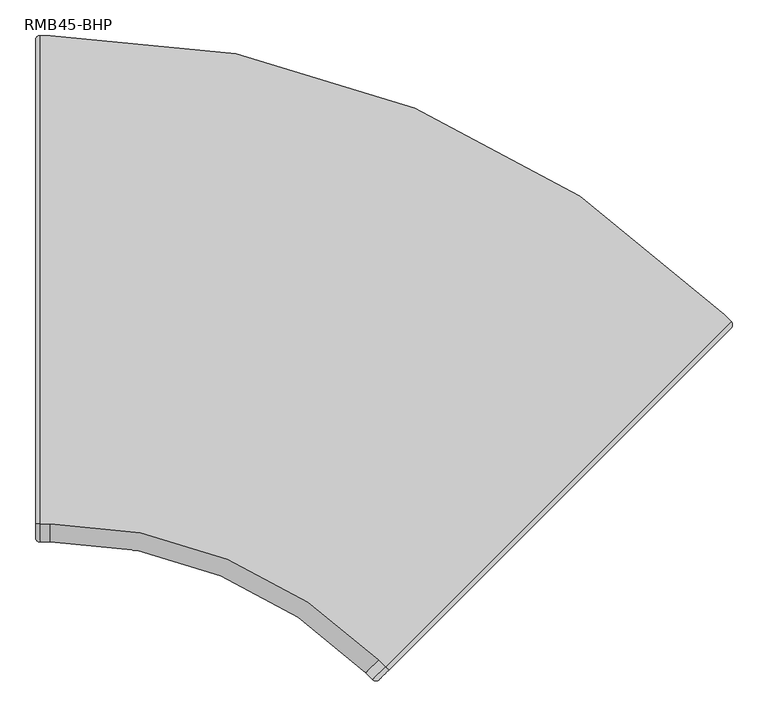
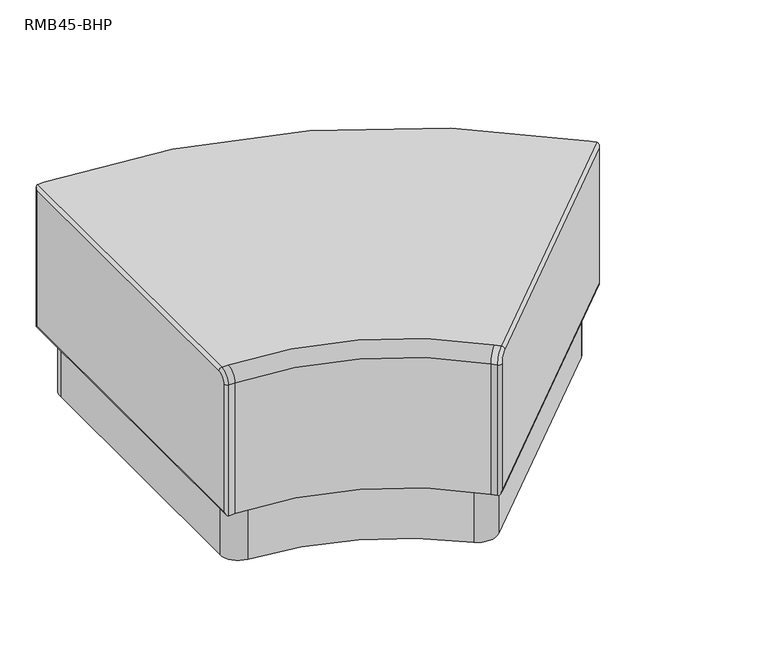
"""IFC4 building model written with IfcOpenShell, lengths in millimetres: furniture geometry, Stance_HC-Rosetta-45_Curve_Bench_Plinth_Base : RMB45-BHP."""

from ifc_helpers import new_model, si_unit, point, frame, frame_2d, origin, origin_with_axes, place, context, project, spatial, polyline, circle_curve, ellipse_curve, trimmed, segment, composite_curve, outline, extrude, source, transform, mapped, element, save
from ifc_brep_helpers import plane_surface, cylinder_surface, revolved_surface, advanced_brep


def rmb45_bhp_5dc01c21(model_context):
    return source(origin(), model_context, "Body", "SolidModel", [
        extrude(outline(composite_curve([segment(trimmed(circle_curve(frame_2d((895.3141151, -406.5636273)), 39.6875), [point((922.4922983, -377.6422855))], [point((923.3774154, -434.6269277))], False, "CARTESIAN"), True, "CONTINUOUS"), segment(polyline([(923.3774154, -434.6269277), (504.8361601, -853.168183)]), True, "CONTINUOUS"), segment(trimmed(circle_curve(frame_2d((476.7728597, -825.1048826)), 39.6875), [point((504.8361601, -853.168183))], [point((450.3788925, -854.7436436))], False, "CARTESIAN"), True, "CONTINUOUS"), segment(trimmed(circle_curve(frame_2d((20.225, -1337.7793431)), 646.8043431), [point((450.3788925, -854.7436436))], [point((57.6180843, -692.0567901))], True, "CARTESIAN"), True, "CONTINUOUS"), segment(trimmed(circle_curve(frame_2d((59.9125, -652.435668)), 39.6875), [point((57.6180843, -692.0567901))], [point((20.225, -652.435668))], False, "CARTESIAN"), True, "CONTINUOUS"), segment(polyline([(20.225, -652.435668), (20.225, -60.5289483)]), True, "CONTINUOUS"), segment(trimmed(circle_curve(frame_2d((59.9125, -60.5289483)), 39.6875), [point((20.225, -60.5289483))], [point((61.1450992, -20.8605937))], False, "CARTESIAN"), True, "CONTINUOUS"), segment(trimmed(circle_curve(frame_2d((20.225, -1337.7793431)), 1317.5543431), [point((61.1450992, -20.8605937))], [point((922.4922983, -377.6422855))], False, "CARTESIAN"), True, "CONTINUOUS")], self_intersect=False)), frame((0.0, 0.0, 6.3627), z_axis=(0.0, 0.0, 1.0), x_axis=(1.0, 0.0, 0.0)), (0.0, 0.0, 1.0), 128.51892),
        advanced_brep(
        [(966.1778452, -391.8264979, 457.2), (20.225, 0.0, 457.2), (6.35, 0.0, 457.2), (6.35, -685.7999758, 457.2), (20.225, -685.7999758, 457.2), (481.2440318, -876.7603113, 457.2), (491.0551384, -886.5714179, 457.2), (975.9889518, -401.6376045, 457.2), (966.1778452, -391.8264979, 134.88162), (20.225, 0.0, 134.88162), (975.9889518, -401.6376045, 134.88162), (473.0946262, -904.5319301, 134.88162), (463.2835196, -894.7208235, 134.88162), (20.225, -711.1999758, 134.88162), (6.35, -711.1999758, 134.88162), (6.35, 0.0, 134.88162), (463.2835196, -894.7208235, 431.8), (20.225, -711.1999758, 431.8), (0.0, -6.35, 141.23162), (0.0, -6.35, 450.85), (0.0, -704.8499758, 141.23162), (6.35, -711.1999758, 431.8), (0.0, -704.8499758, 431.8), (0.0, -685.7999758, 450.85), (482.0748823, -904.5319301, 431.8), (495.5452665, -891.0615459, 450.85), (473.0946262, -904.5319301, 431.8), (482.0748823, -904.5319301, 141.23162), (975.9889518, -410.6178606, 141.23162), (975.9889518, -410.6178606, 450.85)],
        [
            (0, 1, circle_curve(frame((20.225, -1337.7793431, 457.2), z_axis=(0.0, 0.0, 1.0), x_axis=(0.0, 1.0, 0.0)), 1337.7793431)),
            (1, 2),
            (2, 3),
            (3, 4),
            (4, 5, circle_curve(frame((20.225, -1337.7793431, 457.2), z_axis=(0.0, 0.0, -1.0), x_axis=(0.0, 1.0, 0.0)), 651.9793673)),
            (5, 6),
            (6, 7),
            (7, 0),
            (0, 8),
            (8, 9, circle_curve(frame((20.225, -1337.7793431, 134.88162), z_axis=(0.0, 0.0, 1.0), x_axis=(0.0, 1.0, 0.0)), 1337.7793431)),
            (9, 1),
            (8, 10),
            (10, 11),
            (11, 12),
            (12, 13, circle_curve(frame((20.225, -1337.7793431, 134.88162), z_axis=(0.0, 0.0, 1.0), x_axis=(0.0, 1.0, 0.0)), 626.5793673)),
            (13, 14),
            (14, 15),
            (15, 9),
            (12, 16),
            (16, 17, circle_curve(frame((20.225, -1337.7793431, 431.8), z_axis=(0.0, 0.0, 1.0), x_axis=(0.0, 1.0, 0.0)), 626.5793673)),
            (17, 13),
            (4, 17, circle_curve(frame((20.225, -685.7999758, 431.8), z_axis=(1.0, 0.0, 0.0), x_axis=(0.0, 1.0, 0.0)), 25.4)),
            (16, 5, circle_curve(frame((481.2440318, -876.7603113, 431.8), z_axis=(-0.7071067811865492, 0.7071067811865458, 0.0), x_axis=(0.7071067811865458, 0.7071067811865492, 0.0)), 25.4)),
            (15, 2),
            (15, 18, ellipse_curve(frame((6.35, -6.35, 141.23162), z_axis=(0.0, 0.7071067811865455, 0.7071067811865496), x_axis=(0.0, -0.7071067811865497, 0.7071067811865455)), 8.9802561, 6.35)),
            (18, 19),
            (19, 2, ellipse_curve(frame((6.35, -6.35, 450.85), z_axis=(0.0, 0.7071067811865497, -0.7071067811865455), x_axis=(0.0, 0.7071067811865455, 0.7071067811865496)), 8.9802561, 6.35)),
            (14, 20, ellipse_curve(frame((6.35, -704.8499758, 141.23162), z_axis=(0.0, 0.7071067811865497, -0.7071067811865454), x_axis=(0.0, 0.7071067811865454, 0.7071067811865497)), 8.9802561, 6.35)),
            (20, 18),
            (17, 21),
            (21, 14),
            (21, 22, circle_curve(frame((6.35, -704.8499758, 431.8), z_axis=(0.0, 0.0, -1.0), x_axis=(0.0, -1.0, 0.0)), 6.35)),
            (22, 20),
            (3, 21, circle_curve(frame((6.35, -685.7999758, 431.8), z_axis=(1.0, 0.0, 0.0), x_axis=(0.0, -1.0, 0.0)), 25.4)),
            (3, 23, circle_curve(frame((6.35, -685.7999758, 450.85), z_axis=(0.0, -1.0, 0.0), x_axis=(0.0, 0.0, 1.0)), 6.35)),
            (23, 22, circle_curve(frame((0.0, -685.7999758, 431.8), z_axis=(1.0, 0.0, 0.0), x_axis=(0.0, -1.0, 0.0)), 19.05)),
            (19, 23),
            (24, 25, circle_curve(frame((495.5452665, -891.0615459, 431.8), z_axis=(-0.7071067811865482, 0.7071067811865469, 0.0), x_axis=(0.0, 0.0, 1.0)), 19.05)),
            (25, 6, circle_curve(frame((491.0551384, -886.5714179, 450.85), z_axis=(-0.7071067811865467, -0.7071067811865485, 0.0), x_axis=(0.0, 0.0, -1.0)), 6.35)),
            (6, 26, circle_curve(frame((491.0551384, -886.5714179, 431.8), z_axis=(0.7071067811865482, -0.7071067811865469, 0.0), x_axis=(0.0, 0.0, 1.0)), 25.4)),
            (26, 24, circle_curve(frame((477.5847542, -900.041802, 431.8), z_axis=(0.0, 0.0, 1.0), x_axis=(0.7071067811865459, 0.7071067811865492, 0.0)), 6.35)),
            (16, 26),
            (26, 11),
            (11, 27, ellipse_curve(frame((477.5847542, -900.041802, 141.23162), z_axis=(-0.5000000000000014, -0.5000000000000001, 0.7071067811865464), x_axis=(0.4999999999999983, 0.5000000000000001, 0.7071067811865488)), 8.9802561, 6.35)),
            (27, 24),
            (10, 28, ellipse_curve(frame((971.4988238, -406.1277325, 141.23162), z_axis=(-0.4999999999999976, -0.5000000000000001, -0.707106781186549), x_axis=(-0.5000000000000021, -0.5000000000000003, 0.7071067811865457)), 8.9802561, 6.35)),
            (28, 27),
            (10, 7),
            (7, 29, ellipse_curve(frame((971.4988238, -406.1277325, 450.85), z_axis=(0.5000000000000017, 0.5000000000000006, -0.707106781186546), x_axis=(-0.4999999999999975, -0.5000000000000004, -0.7071067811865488)), 8.9802561, 6.35)),
            (29, 28),
            (25, 29),
        ],
        [
            plane_surface(frame((20.225, -1337.7793431, 457.2), z_axis=(0.0, 0.0, 1.0), x_axis=(0.0, 1.0, 0.0))),
            cylinder_surface(frame((20.225, -1337.7793431, 618.9648354), z_axis=(0.0, 0.0, -1.0), x_axis=(0.0, 1.0, 0.0)), 1337.7793431),
            plane_surface(frame((20.225, -1337.7793431, 134.88162), z_axis=(0.0, 0.0, -1.0), x_axis=(0.0, 1.0, 0.0))),
            revolved_surface(polyline([(20.225, -711.1999758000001, 134.88162), (20.225, -711.1999758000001, 431.8)]), (20.225, -1337.7793431, 618.9648354), (0.0, 0.0, -1.0)),
            revolved_surface(trimmed(ellipse_curve(frame((20.225, -685.7999758, 431.8), z_axis=(-1.0, 0.0, 0.0), x_axis=(0.0, 1.0, 0.0)), 25.4, 25.4), [point((20.225, -711.1999758, 431.8))], [point((20.225, -685.7999758, 457.2))], True, "CARTESIAN"), (20.225, -1337.7793431, 618.9648354), (0.0, 0.0, -1.0)),
            plane_surface(frame((20.225, 0.0, 457.2), z_axis=(0.0, 1.0, 0.0), x_axis=(0.0, 0.0, -1.0))),
            cylinder_surface(frame((6.35, -6.35, 457.2), z_axis=(0.0, 0.0, 1.0), x_axis=(0.0, 1.0, 0.0)), 6.35),
            cylinder_surface(frame((6.35, 0.0, 141.23162), z_axis=(0.0, 1.0, 0.0), x_axis=(0.0, 0.0, -1.0)), 6.35),
            plane_surface(frame((20.225, -711.1999758, 134.88162), z_axis=(0.0, -1.0, 0.0), x_axis=(0.0, 0.0, 1.0))),
            cylinder_surface(frame((6.35, -704.8499758, 134.88162), z_axis=(0.0, 0.0, -1.0), x_axis=(0.0, -1.0, 0.0)), 6.35),
            cylinder_surface(frame((0.0, -685.7999758, 431.8), z_axis=(-1.0, 0.0, 0.0), x_axis=(0.0, -1.0, 0.0)), 25.4),
            revolved_surface(trimmed(ellipse_curve(frame((6.35, -704.8499758, 431.8), z_axis=(0.0, 0.0, -1.0), x_axis=(0.0, -1.0, 0.0)), 6.35, 6.35), [point((6.35, -711.1999758, 431.8))], [point((0.0, -704.8499758, 431.8))], True, "CARTESIAN"), (0.0, -685.7999758, 431.8), (-1.0, 0.0, 0.0)),
            cylinder_surface(frame((6.35, -685.7999758, 450.85), z_axis=(0.0, -1.0, 0.0), x_axis=(0.0, 0.0, 1.0)), 6.35),
            plane_surface(frame((0.0, -685.7999758, 450.85), z_axis=(-1.0, 0.0, 0.0), x_axis=(0.0, 1.0, 0.0))),
            revolved_surface(trimmed(ellipse_curve(frame((491.0551384, -886.5714179, 450.85), z_axis=(0.7071067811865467, 0.7071067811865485, 0.0), x_axis=(0.0, 0.0, -1.0)), 6.35, 6.35), [point((491.0551384, -886.5714179, 457.2))], [point((495.5452665, -891.0615459, 450.85))], True, "CARTESIAN"), (481.2440318, -876.7603113, 431.8), (0.7071067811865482, -0.7071067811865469, 0.0)),
            cylinder_surface(frame((481.2440318, -876.7603113, 431.8), z_axis=(0.7071067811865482, -0.7071067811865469, 0.0), x_axis=(0.0, 0.0, 1.0)), 25.4),
            cylinder_surface(frame((477.5847542, -900.041802, 431.8), z_axis=(0.0, 0.0, 1.0), x_axis=(0.7071067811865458, 0.7071067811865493, 0.0)), 6.35),
            plane_surface(frame((463.2835196, -894.7208235, 431.8), z_axis=(-0.7071067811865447, -0.7071067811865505, 0.0), x_axis=(0.0, 0.0, -1.0))),
            cylinder_surface(frame((473.0946262, -904.5319301, 141.23162), z_axis=(-0.7071067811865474, -0.7071067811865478, 0.0), x_axis=(0.0, 0.0, 1.0)), 6.35),
            cylinder_surface(frame((971.4988238, -406.1277325, 134.88162), z_axis=(0.0, 0.0, -1.0), x_axis=(-0.7071067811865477, -0.7071067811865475, 0.0)), 6.35),
            plane_surface(frame((966.1778452, -391.8264979, 134.88162), z_axis=(0.7071067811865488, 0.7071067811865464, 0.0), x_axis=(0.0, 0.0, 1.0))),
            cylinder_surface(frame((975.9889518, -401.6376045, 450.85), z_axis=(0.7071067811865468, 0.7071067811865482, 0.0), x_axis=(0.0, 0.0, -1.0)), 6.35),
            plane_surface(frame((975.9889518, -410.6178606, 450.85), z_axis=(0.7071067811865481, -0.7071067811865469, 0.0), x_axis=(-0.7071067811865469, -0.7071067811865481, 0.0))),
        ],
        [
            (0, [[1, 2, 3, 4, 5, 6, 7, 8]]),
            (1, [[-1, 9, 10, 11]]),
            (2, [[-10, 12, 13, 14, 15, 16, 17, 18]]),
            (3, [[-15, 19, 20, 21]]),
            (4, [[-5, 22, -20, 23]]),
            (5, [[-2, -11, -18, 24]]),
            (6, [[-24, 25, 26, 27]]),
            (7, [[-25, -17, 28, 29]]),
            (8, [[-16, -21, 30, 31]]),
            (9, [[-28, -31, 32, 33]]),
            (10, [[-30, -22, -4, 34]]),
            (11, [[-32, -34, 35, 36]]),
            (12, [[-27, 37, -35, -3]]),
            (13, [[-26, -29, -33, -36, -37]]),
            (14, [[38, 39, 40, 41]]),
            (15, [[-40, -6, -23, 42]]),
            (16, [[-41, 43, 44, 45]]),
            (17, [[-42, -19, -14, -43]]),
            (18, [[-44, -13, 46, 47]]),
            (19, [[-46, 48, 49, 50]]),
            (20, [[-12, -9, -8, -48]]),
            (21, [[-39, 51, -49, -7]]),
            (22, [[-38, -45, -47, -50, -51]]),
        ],
    ),
        extrude(outline(composite_curve([segment(trimmed(circle_curve(frame_2d((56.3119278, -53.0788193)), 11.90625), [point((56.3119278, -64.9850693))], [point((56.3119278, -41.1725693))], False, "CARTESIAN"), True, "CONTINUOUS"), segment(trimmed(circle_curve(frame_2d((56.3119278, -53.0788193)), 11.90625), [point((56.3119278, -41.1725693))], [point((56.3119278, -64.9850693))], False, "CARTESIAN"), True, "CONTINUOUS")], self_intersect=False)), origin_with_axes(), (0.0, 0.0, 1.0), 6.3627),
        extrude(outline(composite_curve([segment(trimmed(circle_curve(frame_2d((56.3119278, -658.1211807)), 11.90625), [point((56.3119278, -670.0274307))], [point((56.3119278, -646.2149307))], False, "CARTESIAN"), True, "CONTINUOUS"), segment(trimmed(circle_curve(frame_2d((56.3119278, -658.1211807)), 11.90625), [point((56.3119278, -646.2149307))], [point((56.3119278, -670.0274307))], False, "CARTESIAN"), True, "CONTINUOUS")], self_intersect=False)), origin_with_axes(), (0.0, 0.0, 1.0), 6.3627),
        extrude(outline(composite_curve([segment(trimmed(circle_curve(frame_2d((903.1281408, -403.8415796)), 11.90625), [point((903.1281408, -415.7478296))], [point((903.1281408, -391.9353296))], False, "CARTESIAN"), True, "CONTINUOUS"), segment(trimmed(circle_curve(frame_2d((903.1281408, -403.8415796)), 11.90625), [point((903.1281408, -391.9353296))], [point((903.1281408, -415.7478296))], False, "CARTESIAN"), True, "CONTINUOUS")], self_intersect=False)), origin_with_axes(), (0.0, 0.0, 1.0), 6.3627),
        extrude(outline(composite_curve([segment(trimmed(circle_curve(frame_2d((475.2985842, -831.6711362)), 11.90625), [point((475.2985842, -843.5773862))], [point((475.2985842, -819.7648862))], False, "CARTESIAN"), True, "CONTINUOUS"), segment(trimmed(circle_curve(frame_2d((475.2985842, -831.6711362)), 11.90625), [point((475.2985842, -819.7648862))], [point((475.2985842, -843.5773862))], False, "CARTESIAN"), True, "CONTINUOUS")], self_intersect=False)), origin_with_axes(), (0.0, 0.0, 1.0), 6.3627),
    ])


if __name__ == "__main__":
    model = new_model("IFC4")
    model_context = context("Model", 3, world=origin())
    ifc_project = project(units=[si_unit("LENGTHUNIT", "METRE", prefix="MILLI")], contexts=[model_context])
    site = spatial("IfcSite", under=ifc_project)
    building = spatial("IfcBuilding", under=site)
    placement = place(None, origin())
    rmb45_bhp_shape = rmb45_bhp_5dc01c21(model_context)
    element("IfcFurniture", 1, ObjectType="Stance_HC-Rosetta-45_Curve_Bench_Plinth_Base : RMB45-BHP", at=placement, inside=building, context=model_context, shape_type="MappedRepresentation", body=[
        mapped(rmb45_bhp_shape, transform((0.0, 0.0, 0.0), x_axis=(1.0, 0.0, 0.0), y_axis=(0.0, 1.0, 0.0), z_axis=(0.0, 0.0, 1.0))),
    ])
    save(model, "model.ifc")
